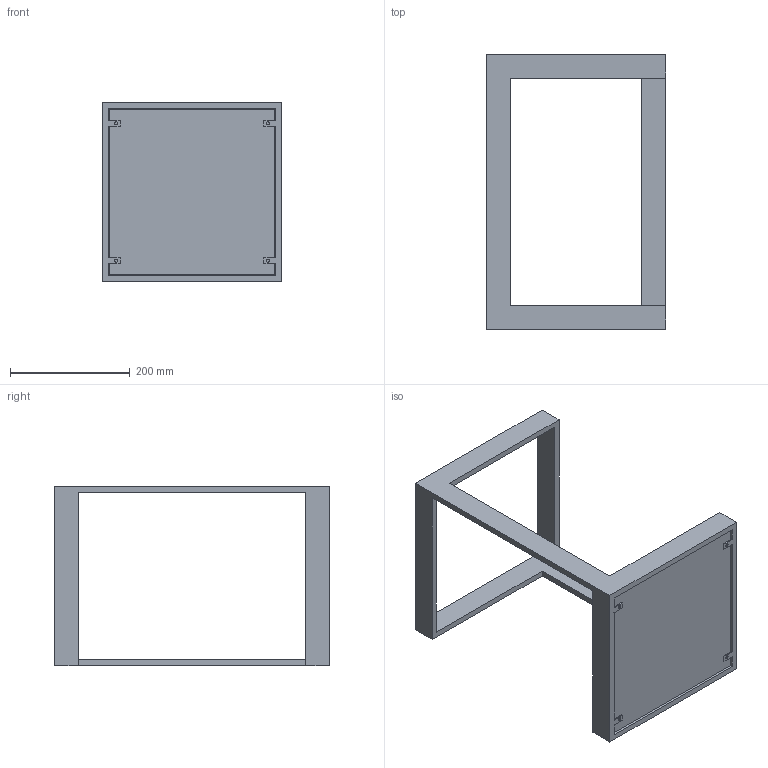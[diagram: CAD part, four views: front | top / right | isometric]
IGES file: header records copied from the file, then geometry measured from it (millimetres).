
Start section: SolidWorks IGES file using NURBS representation for surfaces
Global section: file name: G:\VICCARBE\PRODUCTOS\FAMILIAS 2D - 3D (PRODUCTOS VICCARBE)\3D (IGES + STL + DWG)\02-WINDOW\01-IGES\VICCARBE_Window_umbrellastand.IGS; native system: SolidWorks 2009; preprocessor: SolidWorks 2009; author: RUBEN; date: 110830.124216; units: millimetre
Bounding box: 300 x 460 x 300 mm (x, y, z)
Surface area: 494386.6 mm2 (no closed solid volume)
Topology: 0 solids, 0 shells, 72 faces, 608 edges, 608 vertices
Faces by surface type: bspline 72
